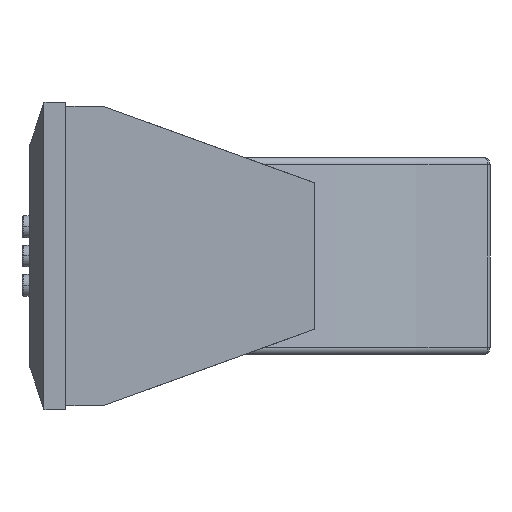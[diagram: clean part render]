
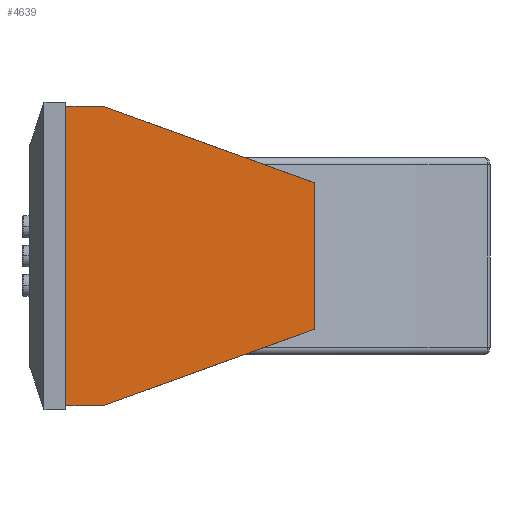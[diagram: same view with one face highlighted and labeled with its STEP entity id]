
A CAD part, left-side view. The second image highlights one B-rep face of the part: STEP entity #4639.
In plain terms, the highlighted planar face has unit normal (-1, 0, 0) as drawn and (0, 0, 1) by its records, which use the part's own axes.
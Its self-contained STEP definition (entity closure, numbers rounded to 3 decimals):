
#332 = LINE ( 'NONE', #389, #8610 ) ;
#389 = CARTESIAN_POINT ( 'NONE',  ( -10.25, 0., 5. ) ) ;
#547 = LINE ( 'NONE', #2879, #2430 ) ;
#917 = CARTESIAN_POINT ( 'NONE',  ( 0., 0., 5. ) ) ;
#1120 = CARTESIAN_POINT ( 'NONE',  ( -10.25, 2.5, 5. ) ) ;
#1591 = CARTESIAN_POINT ( 'NONE',  ( 10.25, 0., 5. ) ) ;
#1805 = EDGE_CURVE ( 'NONE', #8021, #8199, #6610, .T. ) ;
#1938 = CARTESIAN_POINT ( 'NONE',  ( -5., 17., 5. ) ) ;
#2085 = LINE ( 'NONE', #1591, #8475 ) ;
#2106 = VECTOR ( 'NONE', #2736, 1000. ) ;
#2296 = CARTESIAN_POINT ( 'NONE',  ( 10.25, 0., 5. ) ) ;
#2368 = VERTEX_POINT ( 'NONE', #7092 ) ;
#2430 = VECTOR ( 'NONE', #8497, 1000. ) ;
#2498 = EDGE_CURVE ( 'NONE', #5179, #6431, #332, .T. ) ;
#2736 = DIRECTION ( 'NONE',  ( -0.34, -0.94, 0. ) ) ;
#2780 = EDGE_CURVE ( 'NONE', #6431, #8468, #2085, .T. ) ;
#2797 = EDGE_CURVE ( 'NONE', #8199, #5179, #5820, .T. ) ;
#2879 = CARTESIAN_POINT ( 'NONE',  ( 10.25, 2.5, 5. ) ) ;
#2923 = ORIENTED_EDGE ( 'NONE', *, *, #2780, .T. ) ;
#2924 = FACE_OUTER_BOUND ( 'NONE', #4860, .T. ) ;
#3296 = ORIENTED_EDGE ( 'NONE', *, *, #2498, .T. ) ;
#3323 = ORIENTED_EDGE ( 'NONE', *, *, #5082, .T. ) ;
#3790 = DIRECTION ( 'NONE',  ( 0., -1., 0. ) ) ;
#3823 = CARTESIAN_POINT ( 'NONE',  ( 10.25, 2.5, 5. ) ) ;
#4086 = DIRECTION ( 'NONE',  ( 1., 0., 0. ) ) ;
#4586 = ORIENTED_EDGE ( 'NONE', *, *, #9938, .T. ) ;
#4639 = ADVANCED_FACE ( 'NONE', ( #2924 ), #6438, .T. ) ;
#4860 = EDGE_LOOP ( 'NONE', ( #2923, #3323, #4586, #6010, #10079, #3296 ) ) ;
#5082 = EDGE_CURVE ( 'NONE', #8468, #2368, #547, .T. ) ;
#5179 = VERTEX_POINT ( 'NONE', #6137 ) ;
#5649 = CARTESIAN_POINT ( 'NONE',  ( -5., 17., 5. ) ) ;
#5820 = LINE ( 'NONE', #10228, #9838 ) ;
#5900 = VECTOR ( 'NONE', #7395, 1000. ) ;
#5947 = LINE ( 'NONE', #9791, #5900 ) ;
#6010 = ORIENTED_EDGE ( 'NONE', *, *, #1805, .T. ) ;
#6137 = CARTESIAN_POINT ( 'NONE',  ( -10.25, 0., 5. ) ) ;
#6431 = VERTEX_POINT ( 'NONE', #2296 ) ;
#6438 = PLANE ( 'NONE',  #7334 ) ;
#6610 = LINE ( 'NONE', #1938, #2106 ) ;
#6798 = DIRECTION ( 'NONE',  ( 1., 0., 0. ) ) ;
#7092 = CARTESIAN_POINT ( 'NONE',  ( 5., 17., 5. ) ) ;
#7334 = AXIS2_PLACEMENT_3D ( 'NONE', #917, #8197, #6798 ) ;
#7395 = DIRECTION ( 'NONE',  ( -1., 0., 0. ) ) ;
#8021 = VERTEX_POINT ( 'NONE', #5649 ) ;
#8197 = DIRECTION ( 'NONE',  ( 0., 0., 1. ) ) ;
#8199 = VERTEX_POINT ( 'NONE', #1120 ) ;
#8468 = VERTEX_POINT ( 'NONE', #3823 ) ;
#8475 = VECTOR ( 'NONE', #10358, 1000. ) ;
#8497 = DIRECTION ( 'NONE',  ( -0.34, 0.94, 0. ) ) ;
#8610 = VECTOR ( 'NONE', #4086, 1000. ) ;
#9791 = CARTESIAN_POINT ( 'NONE',  ( 5., 17., 5. ) ) ;
#9838 = VECTOR ( 'NONE', #3790, 1000. ) ;
#9938 = EDGE_CURVE ( 'NONE', #2368, #8021, #5947, .T. ) ;
#10079 = ORIENTED_EDGE ( 'NONE', *, *, #2797, .T. ) ;
#10228 = CARTESIAN_POINT ( 'NONE',  ( -10.25, 2.5, 5. ) ) ;
#10358 = DIRECTION ( 'NONE',  ( 0., 1., 0. ) ) ;
